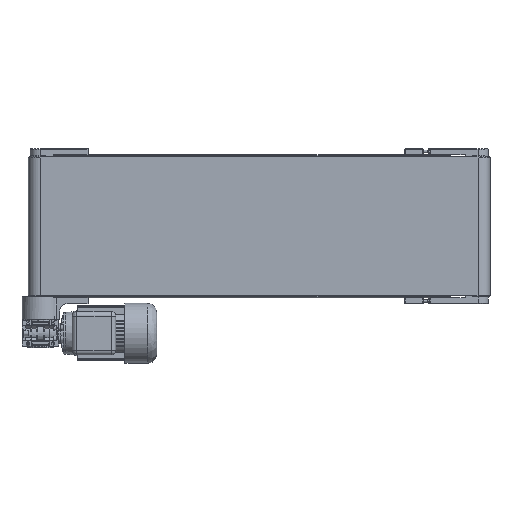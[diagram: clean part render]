
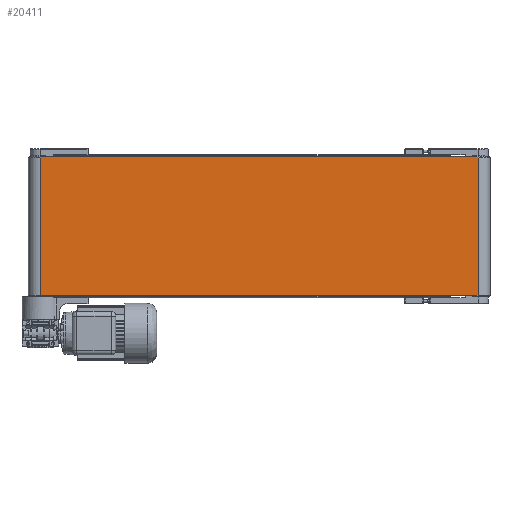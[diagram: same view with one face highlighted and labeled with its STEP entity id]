
A CAD part, top view. The second image highlights one B-rep face of the part: STEP entity #20411.
In plain terms, the highlighted planar face has unit normal (0, 0, 1).
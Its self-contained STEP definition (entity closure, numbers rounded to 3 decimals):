
#393 = ORIENTED_EDGE ( 'NONE', *, *, #7167, .T. ) ;
#1908 = FACE_OUTER_BOUND ( 'NONE', #22132, .T. ) ;
#2649 = VECTOR ( 'NONE', #43852, 1000. ) ;
#2840 = VERTEX_POINT ( 'NONE', #11779 ) ;
#6801 = VERTEX_POINT ( 'NONE', #37271 ) ;
#7167 = EDGE_CURVE ( 'NONE', #41119, #2840, #14918, .T. ) ;
#8105 = ORIENTED_EDGE ( 'NONE', *, *, #27528, .F. ) ;
#9328 = CARTESIAN_POINT ( 'NONE',  ( 26., 0., 26. ) ) ;
#10634 = LINE ( 'NONE', #24513, #42419 ) ;
#11726 = EDGE_CURVE ( 'NONE', #2840, #21392, #19095, .T. ) ;
#11779 = CARTESIAN_POINT ( 'NONE',  ( 26., 0., 26. ) ) ;
#14227 = DIRECTION ( 'NONE',  ( 0., -1., 0. ) ) ;
#14677 = CARTESIAN_POINT ( 'NONE',  ( 26., 300., 26. ) ) ;
#14918 = LINE ( 'NONE', #14677, #22631 ) ;
#15331 = DIRECTION ( 'NONE',  ( 0., 0., -1. ) ) ;
#16795 = DIRECTION ( 'NONE',  ( 0., -1., 0. ) ) ;
#17901 = DIRECTION ( 'NONE',  ( -1., 0., 0. ) ) ;
#18965 = CARTESIAN_POINT ( 'NONE',  ( 26., 300., 26. ) ) ;
#19095 = LINE ( 'NONE', #9328, #2649 ) ;
#20411 = ADVANCED_FACE ( 'NONE', ( #1908 ), #22589, .F. ) ;
#21392 = VERTEX_POINT ( 'NONE', #34942 ) ;
#22132 = EDGE_LOOP ( 'NONE', ( #24352, #31539, #8105, #393 ) ) ;
#22589 = PLANE ( 'NONE',  #39558 ) ;
#22631 = VECTOR ( 'NONE', #14227, 1000. ) ;
#23816 = CARTESIAN_POINT ( 'NONE',  ( 26., 300., 26. ) ) ;
#24352 = ORIENTED_EDGE ( 'NONE', *, *, #11726, .T. ) ;
#24513 = CARTESIAN_POINT ( 'NONE',  ( 26., 300., 26. ) ) ;
#27528 = EDGE_CURVE ( 'NONE', #41119, #6801, #10634, .T. ) ;
#31539 = ORIENTED_EDGE ( 'NONE', *, *, #44239, .F. ) ;
#33614 = CARTESIAN_POINT ( 'NONE',  ( 974., 300., 26. ) ) ;
#34062 = LINE ( 'NONE', #33614, #39570 ) ;
#34942 = CARTESIAN_POINT ( 'NONE',  ( 974., 0., 26. ) ) ;
#37271 = CARTESIAN_POINT ( 'NONE',  ( 974., 300., 26. ) ) ;
#38355 = DIRECTION ( 'NONE',  ( 1., 0., 0. ) ) ;
#39558 = AXIS2_PLACEMENT_3D ( 'NONE', #18965, #15331, #17901 ) ;
#39570 = VECTOR ( 'NONE', #16795, 1000. ) ;
#41119 = VERTEX_POINT ( 'NONE', #23816 ) ;
#42419 = VECTOR ( 'NONE', #38355, 1000. ) ;
#43852 = DIRECTION ( 'NONE',  ( 1., 0., 0. ) ) ;
#44239 = EDGE_CURVE ( 'NONE', #6801, #21392, #34062, .T. ) ;
